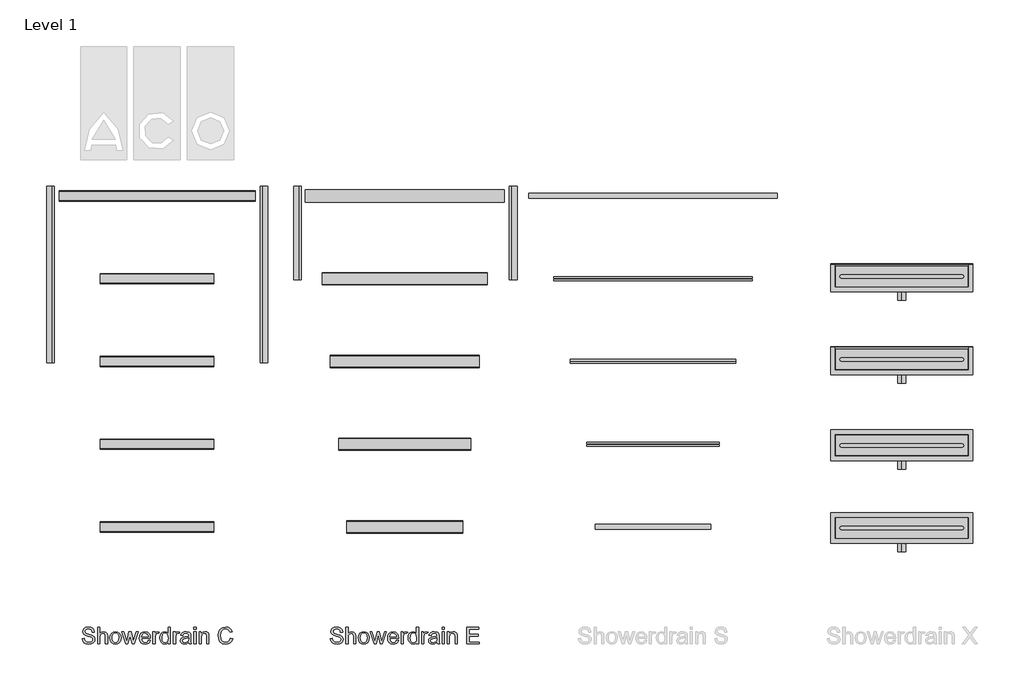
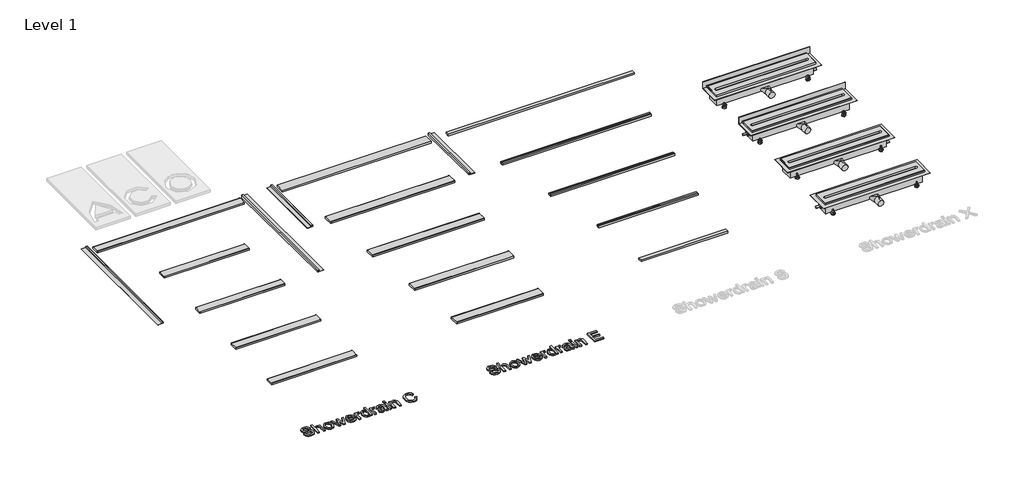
# One storey, part 1 of 2: 23 sanitary terminals, 2 proxies.
"""IFC4 building model written with IfcOpenShell, lengths in millimetres."""

from ifc_helpers import new_model, si_unit, origin, origin_with_axes, place, context, project, spatial, polyline, outline, extrude, transform, mapped, element, save
from components import flag_2725124b, massive_860a07fc, quadrato_88da67b6, solid_bb1f5994, solid_160a1f14, square_cc1d3f16, stripe_b3f19a70, stripes_9619ddbf, stripes_a5dfda9a, stripes_f10ac989, tile_3ef8edfc, twist_63049ae0, twist_12184f07, horizontal_flange_dd45173d, horizontal_flange_0941f2cd, std_3f80d74d, std_d389b9e6, std_fc5748fb, std_90f46c42, wall_flange_efd886ff, wall_flange_291a86f9

model = new_model("IFC4")

# Units and contexts
model_context = context("Model", 3, world=origin())
ifc_project = project(units=[si_unit("LENGTHUNIT", "METRE", prefix="MILLI")], contexts=[model_context])

# Site, building, storey
site = spatial("IfcSite", under=ifc_project)
building = spatial("IfcBuilding", under=site)
storey = spatial("IfcBuildingStorey", under=building, Name="Level 1", Elevation=0.0)

# Proxies
placement = place(None, origin())
element("IfcBuildingElementProxy", 1, Name="100mm ACO", ObjectType="100mm ACO", at=placement, inside=storey, context=model_context, shape_type="SweptSolid", body=[
    extrude(outline(polyline([(607.4074074, -629.6296296), (605.396412, -620.7356771), (600.9259259, -614.3663194), (584.6064815, -609.2592593), (568.9814815, -613.2378472), (564.4675926, -618.1242766), (562.962963, -624.8263889), (567.4334491, -634.8813657), (585.619213, -641.1747685), (605.4542824, -646.6579861), (618.6053241, -655.5844907), (622.7068866, -662.6663773), (624.0740741, -671.8171296), (621.5675637, -683.6552373), (614.0480324, -693.3015046), (602.4992766, -699.714265), (587.9050926, -701.8518519), (569.921875, -699.4791667), (557.1180556, -692.3611111), (549.3055556, -681.4670139), (546.2962963, -667.7662037), (559.2592593, -666.6666667), (561.8887442, -677.5426794), (568.0989583, -684.9971065), (576.9350405, -689.3048322), (587.4421296, -690.7407407), (604.5717593, -686.009838), (609.4762731, -680.4361979), (611.1111111, -673.1770833), (609.4220197, -665.8492477), (604.3547454, -660.8217593), (581.0763889, -653.3709491), (566.8655961, -649.0306713), (557.2771991, -643.1568287), (551.8192998, -635.5287905), (550.0, -625.9259259), (552.2822627, -614.9305556), (559.1290509, -606.0185185), (569.9110243, -600.1157407), (583.9988426, -598.1481481), (598.5604745, -600.1302083), (609.9537037, -606.0763889), (617.4623843, -615.6684028), (620.3703704, -628.587963), (607.4074074, -629.6296296)])), origin_with_axes(), (0.0, 0.0, 1.0), 10.0),
    extrude(outline(polyline([(700.0, -700.0), (687.037037, -700.0), (687.037037, -653.2986111), (683.3478009, -639.7135417), (672.337963, -635.1851852), (659.4039352, -640.5237269), (655.1287616, -647.9564525), (653.7037037, -659.5775463), (653.7037037, -700.0), (640.7407407, -700.0), (640.7407407, -600.0), (653.7037037, -600.0), (653.7037037, -635.8217593), (663.4042245, -628.3998843), (675.2604167, -625.9259259), (688.5416667, -628.7905093), (697.4392361, -637.6012731), (700.0, -654.1087963), (700.0, -700.0)])), origin_with_axes(), (0.0, 0.0, 1.0), 10.0),
    extrude(outline(polyline([(748.119213, -625.9259259), (761.2955729, -628.3203125), (772.0052083, -635.5034722), (779.1124132, -647.0992477), (781.4814815, -662.7314815), (778.9171007, -681.0040509), (771.2239583, -692.9976852), (760.3190104, -699.6383102), (748.119213, -701.8518519), (735.5287905, -699.5768229), (724.7251157, -692.7517361), (717.29239, -680.9859664), (714.8148148, -663.8888889), (717.2092014, -647.1715856), (724.3923611, -635.3298611), (735.1128472, -628.2769097), (748.119213, -625.9259259)]), holes=[polyline([(748.119213, -692.5925926), (756.92636, -690.5852141), (763.3246528, -684.5630787), (768.5185185, -663.4259259), (767.0500579, -651.1429398), (762.6446759, -642.3032407), (756.0763889, -636.9646991), (748.119213, -635.1851852), (740.0065104, -636.9900174), (733.4924769, -642.4045139), (729.2064525, -651.3925058), (727.7777778, -663.9178241), (729.2317708, -676.3997396), (733.59375, -685.3732639), (740.1331019, -690.7877604), (748.119213, -692.5925926)])]), origin_with_axes(), (0.0, 0.0, 1.0), 10.0),
    extrude(outline(polyline([(885.6481481, -627.7777778), (861.4293981, -700.0), (849.1608796, -700.0), (838.6574074, -656.5972222), (837.3553241, -650.7378472), (836.1111111, -644.3287037), (823.3506944, -700.0), (811.1111111, -700.0), (786.5740741, -627.7777778), (798.119213, -627.7777778), (815.7407407, -685.0115741), (817.8530093, -675.2604167), (828.8773148, -627.7777778), (843.4606481, -627.7777778), (852.1990741, -665.6539352), (856.25, -683.4490741), (874.1030093, -627.7777778), (885.6481481, -627.7777778)])), origin_with_axes(), (0.0, 0.0, 1.0), 10.0),
    extrude(outline(polyline([(959.2592593, -666.6666667), (905.5555556, -666.6666667), (907.6280382, -677.7922454), (912.3408565, -685.9375), (919.1225405, -690.9288194), (927.4016204, -692.5925926), (939.0769676, -688.9033565), (946.2962963, -677.7777778), (959.2592593, -679.2824074), (954.8828125, -688.9033565), (947.9456019, -696.0069444), (938.7008102, -700.390625), (927.4016204, -701.8518519), (912.8146701, -699.3453414), (901.8084491, -691.8258102), (894.8965567, -679.9660012), (892.5925926, -664.4386574), (894.8133681, -648.900463), (901.4756944, -636.6030093), (912.1744792, -628.5951968), (926.5046296, -625.9259259), (941.724537, -629.3836806), (954.1521991, -641.1603009), (957.9824942, -651.6963252), (959.2592593, -666.6666667)]), holes=[polyline([(946.2962963, -657.4074074), (944.212963, -647.2511574), (939.4675926, -640.3935185), (926.1863426, -635.1851852), (918.3304398, -636.7332176), (912.0081019, -641.3773148), (905.5555556, -657.4074074), (946.2962963, -657.4074074)])]), origin_with_axes(), (0.0, 0.0, 1.0), 10.0),
    extrude(outline(polyline([(1012.962963, -628.7615741), (1008.912037, -637.037037), (1000.4050926, -635.1851852), (994.6108218, -636.8127894), (990.4224537, -641.6956019), (987.037037, -659.9247685), (987.037037, -700.0), (974.0740741, -700.0), (974.0740741, -627.7777778), (985.1851852, -627.7777778), (985.1851852, -638.4837963), (992.115162, -629.0653935), (1000.5497685, -625.9259259), (1012.962963, -628.7615741)])), origin_with_axes(), (0.0, 0.0, 1.0), 10.0),
    extrude(outline(polyline([(1079.6296296, -700.0), (1066.6666667, -700.0), (1066.6666667, -691.8402778), (1058.3116319, -699.3489583), (1046.9328704, -701.8518519), (1035.0658275, -699.2115162), (1025.3327546, -691.2905093), (1018.8331887, -679.1594329), (1016.6666667, -663.8888889), (1018.7427662, -648.1481481), (1024.9710648, -636.1111111), (1034.6064815, -628.4722222), (1046.9039352, -625.9259259), (1058.1886574, -628.2118056), (1066.40625, -635.0694444), (1066.6666667, -600.0), (1079.6296296, -600.0), (1079.6296296, -700.0)]), holes=[polyline([(1048.4375, -692.5925926), (1055.4904514, -690.8854167), (1061.3715278, -685.7638889), (1065.3428819, -677.1701389), (1066.6666667, -665.0462963), (1061.8200231, -643.287037), (1055.9208623, -637.2106481), (1047.9166667, -635.1851852), (1039.9703414, -637.1672454), (1034.2447917, -643.1134259), (1029.6296296, -663.9178241), (1032.1180556, -679.6730324), (1039.0625, -689.3518519), (1048.4375, -692.5925926)])]), origin_with_axes(), (0.0, 0.0, 1.0), 10.0),
    extrude(outline(polyline([(1137.037037, -628.7615741), (1132.9861111, -637.037037), (1124.4791667, -635.1851852), (1118.6848958, -636.8127894), (1114.4965278, -641.6956019), (1111.1111111, -659.9247685), (1111.1111111, -700.0), (1098.1481481, -700.0), (1098.1481481, -627.7777778), (1109.2592593, -627.7777778), (1109.2592593, -638.4837963), (1116.1892361, -629.0653935), (1124.6238426, -625.9259259), (1137.037037, -628.7615741)])), origin_with_axes(), (0.0, 0.0, 1.0), 10.0),
    extrude(outline(polyline([(1207.4074074, -700.0), (1194.4444444, -700.0), (1190.7407407, -691.2615741), (1178.2479745, -699.2042824), (1164.7858796, -701.8518519), (1154.7996238, -700.4050926), (1147.1788194, -696.0648148), (1142.3502604, -689.3518519), (1140.7407407, -680.787037), (1142.3177083, -672.479022), (1147.0486111, -665.7841435), (1155.6785301, -660.8904803), (1168.9525463, -657.9861111), (1180.2951389, -656.25), (1190.7407407, -653.7037037), (1190.4079861, -645.6741898), (1188.4693287, -640.7986111), (1183.3043981, -636.7332176), (1173.7268519, -635.1851852), (1161.646412, -638.3246528), (1155.5555556, -650.0), (1142.5925926, -648.4085648), (1146.1480035, -638.599537), (1152.8211806, -631.568287), (1162.60489, -627.3365162), (1175.4918981, -625.9259259), (1194.7482639, -629.7887731), (1202.3003472, -639.1059028), (1203.7037037, -653.1539352), (1203.7037037, -669.6759259), (1204.2534722, -689.9305556), (1207.4074074, -700.0)]), holes=[polyline([(1190.7407407, -667.5925926), (1190.7407407, -662.962963), (1167.4623843, -668.287037), (1157.1433738, -672.3451968), (1153.7037037, -680.5844907), (1157.4074074, -689.2071759), (1168.0844907, -692.5925926), (1183.8975694, -686.9212963), (1189.0299479, -679.2534722), (1190.7407407, -667.5925926)])]), origin_with_axes(), (0.0, 0.0, 1.0), 10.0),
    extrude(outline(polyline([(1235.1851852, -612.962963), (1222.2222222, -612.962963), (1222.2222222, -600.0), (1235.1851852, -600.0), (1235.1851852, -612.962963)])), origin_with_axes(), (0.0, 0.0, 1.0), 10.0),
    extrude(outline(polyline([(1235.1851852, -700.0), (1222.2222222, -700.0), (1222.2222222, -627.7777778), (1235.1851852, -627.7777778), (1235.1851852, -700.0)])), origin_with_axes(), (0.0, 0.0, 1.0), 10.0),
    extrude(outline(polyline([(1312.962963, -700.0), (1300.0, -700.0), (1300.0, -655.0347222), (1296.1371528, -639.4386574), (1285.3877315, -635.1851852), (1275.3616898, -637.9050926), (1268.6487269, -645.5729167), (1266.6666667, -659.5775463), (1266.6666667, -700.0), (1253.7037037, -700.0), (1253.7037037, -627.7777778), (1264.8148148, -627.7777778), (1264.8148148, -637.818287), (1274.7106481, -628.8917824), (1287.962963, -625.9259259), (1299.3344907, -627.9803241), (1308.130787, -634.1290509), (1312.1383102, -642.8674769), (1312.962963, -655.4108796), (1312.962963, -700.0)])), origin_with_axes(), (0.0, 0.0, 1.0), 10.0),
    extrude(outline(polyline([(1455.5555556, -668.1712963), (1449.6419271, -682.9969618), (1440.5237269, -693.5040509), (1428.7362558, -699.7649016), (1414.8148148, -701.8518519), (1393.9091435, -697.9962384), (1379.5717593, -686.4293981), (1371.2818287, -669.4372106), (1368.5185185, -649.3055556), (1371.7628762, -627.9188368), (1381.4959491, -611.7332176), (1396.3288484, -601.5444155), (1414.8726852, -598.1481481), (1428.1864873, -599.9602141), (1439.4241898, -605.396412), (1448.0938947, -614.3265336), (1453.7037037, -626.6203704), (1440.7407407, -629.6296296), (1430.8883102, -614.3663194), (1414.380787, -609.2592593), (1400.1591435, -611.968316), (1389.84375, -620.0954861), (1383.5720486, -632.7799479), (1381.4814815, -649.1608796), (1383.6950231, -667.5238715), (1390.3356481, -680.4832176), (1400.5353009, -688.17636), (1413.4259259, -690.7407407), (1423.9945023, -689.1239873), (1432.3784722, -684.2737269), (1438.5778356, -676.1754919), (1442.5925926, -664.8148148), (1455.5555556, -668.1712963)])), origin_with_axes(), (0.0, 0.0, 1.0), 10.0),
])
element("IfcBuildingElementProxy", 2, Name="100mm ACO", ObjectType="100mm ACO", at=placement, inside=storey, context=model_context, shape_type="SweptSolid", body=[
    extrude(outline(polyline([(2107.4074074, -629.6296296), (2105.396412, -620.7356771), (2100.9259259, -614.3663194), (2084.6064815, -609.2592593), (2068.9814815, -613.2378472), (2064.4675926, -618.1242766), (2062.962963, -624.8263889), (2067.4334491, -634.8813657), (2085.619213, -641.1747685), (2105.4542824, -646.6579861), (2118.6053241, -655.5844907), (2122.7068866, -662.6663773), (2124.0740741, -671.8171296), (2121.5675637, -683.6552373), (2114.0480324, -693.3015046), (2102.4992766, -699.714265), (2087.9050926, -701.8518519), (2069.921875, -699.4791667), (2057.1180556, -692.3611111), (2049.3055556, -681.4670139), (2046.2962963, -667.7662037), (2059.2592593, -666.6666667), (2061.8887442, -677.5426794), (2068.0989583, -684.9971065), (2076.9350405, -689.3048322), (2087.4421296, -690.7407407), (2104.5717593, -686.009838), (2109.4762731, -680.4361979), (2111.1111111, -673.1770833), (2109.4220197, -665.8492477), (2104.3547454, -660.8217593), (2081.0763889, -653.3709491), (2066.8655961, -649.0306713), (2057.2771991, -643.1568287), (2051.8192998, -635.5287905), (2050.0, -625.9259259), (2052.2822627, -614.9305556), (2059.1290509, -606.0185185), (2069.9110243, -600.1157407), (2083.9988426, -598.1481481), (2098.5604745, -600.1302083), (2109.9537037, -606.0763889), (2117.4623843, -615.6684028), (2120.3703704, -628.587963), (2107.4074074, -629.6296296)])), origin_with_axes(), (0.0, 0.0, 1.0), 10.0),
    extrude(outline(polyline([(2200.0, -700.0), (2187.037037, -700.0), (2187.037037, -653.2986111), (2183.3478009, -639.7135417), (2172.337963, -635.1851852), (2159.4039352, -640.5237269), (2155.1287616, -647.9564525), (2153.7037037, -659.5775463), (2153.7037037, -700.0), (2140.7407407, -700.0), (2140.7407407, -600.0), (2153.7037037, -600.0), (2153.7037037, -635.8217593), (2163.4042245, -628.3998843), (2175.2604167, -625.9259259), (2188.5416667, -628.7905093), (2197.4392361, -637.6012731), (2200.0, -654.1087963), (2200.0, -700.0)])), origin_with_axes(), (0.0, 0.0, 1.0), 10.0),
    extrude(outline(polyline([(2248.119213, -625.9259259), (2261.2955729, -628.3203125), (2272.0052083, -635.5034722), (2279.1124132, -647.0992477), (2281.4814815, -662.7314815), (2278.9171007, -681.0040509), (2271.2239583, -692.9976852), (2260.3190104, -699.6383102), (2248.119213, -701.8518519), (2235.5287905, -699.5768229), (2224.7251157, -692.7517361), (2217.29239, -680.9859664), (2214.8148148, -663.8888889), (2217.2092014, -647.1715856), (2224.3923611, -635.3298611), (2235.1128472, -628.2769097), (2248.119213, -625.9259259)]), holes=[polyline([(2248.119213, -692.5925926), (2256.92636, -690.5852141), (2263.3246528, -684.5630787), (2268.5185185, -663.4259259), (2267.0500579, -651.1429398), (2262.6446759, -642.3032407), (2256.0763889, -636.9646991), (2248.119213, -635.1851852), (2240.0065104, -636.9900174), (2233.4924769, -642.4045139), (2229.2064525, -651.3925058), (2227.7777778, -663.9178241), (2229.2317708, -676.3997396), (2233.59375, -685.3732639), (2240.1331019, -690.7877604), (2248.119213, -692.5925926)])]), origin_with_axes(), (0.0, 0.0, 1.0), 10.0),
    extrude(outline(polyline([(2385.6481481, -627.7777778), (2361.4293981, -700.0), (2349.1608796, -700.0), (2338.6574074, -656.5972222), (2337.3553241, -650.7378472), (2336.1111111, -644.3287037), (2323.3506944, -700.0), (2311.1111111, -700.0), (2286.5740741, -627.7777778), (2298.119213, -627.7777778), (2315.7407407, -685.0115741), (2317.8530093, -675.2604167), (2328.8773148, -627.7777778), (2343.4606481, -627.7777778), (2352.1990741, -665.6539352), (2356.25, -683.4490741), (2374.1030093, -627.7777778), (2385.6481481, -627.7777778)])), origin_with_axes(), (0.0, 0.0, 1.0), 10.0),
    extrude(outline(polyline([(2459.2592593, -666.6666667), (2405.5555556, -666.6666667), (2407.6280382, -677.7922454), (2412.3408565, -685.9375), (2419.1225405, -690.9288194), (2427.4016204, -692.5925926), (2439.0769676, -688.9033565), (2446.2962963, -677.7777778), (2459.2592593, -679.2824074), (2454.8828125, -688.9033565), (2447.9456019, -696.0069444), (2438.7008102, -700.390625), (2427.4016204, -701.8518519), (2412.8146701, -699.3453414), (2401.8084491, -691.8258102), (2394.8965567, -679.9660012), (2392.5925926, -664.4386574), (2394.8133681, -648.900463), (2401.4756944, -636.6030093), (2412.1744792, -628.5951968), (2426.5046296, -625.9259259), (2441.724537, -629.3836806), (2454.1521991, -641.1603009), (2457.9824942, -651.6963252), (2459.2592593, -666.6666667)]), holes=[polyline([(2446.2962963, -657.4074074), (2444.212963, -647.2511574), (2439.4675926, -640.3935185), (2426.1863426, -635.1851852), (2418.3304398, -636.7332176), (2412.0081019, -641.3773148), (2405.5555556, -657.4074074), (2446.2962963, -657.4074074)])]), origin_with_axes(), (0.0, 0.0, 1.0), 10.0),
    extrude(outline(polyline([(2512.962963, -628.7615741), (2508.912037, -637.037037), (2500.4050926, -635.1851852), (2494.6108218, -636.8127894), (2490.4224537, -641.6956019), (2487.037037, -659.9247685), (2487.037037, -700.0), (2474.0740741, -700.0), (2474.0740741, -627.7777778), (2485.1851852, -627.7777778), (2485.1851852, -638.4837963), (2492.115162, -629.0653935), (2500.5497685, -625.9259259), (2512.962963, -628.7615741)])), origin_with_axes(), (0.0, 0.0, 1.0), 10.0),
    extrude(outline(polyline([(2579.6296296, -700.0), (2566.6666667, -700.0), (2566.6666667, -691.8402778), (2558.3116319, -699.3489583), (2546.9328704, -701.8518519), (2535.0658275, -699.2115162), (2525.3327546, -691.2905093), (2518.8331887, -679.1594329), (2516.6666667, -663.8888889), (2518.7427662, -648.1481481), (2524.9710648, -636.1111111), (2534.6064815, -628.4722222), (2546.9039352, -625.9259259), (2558.1886574, -628.2118056), (2566.40625, -635.0694444), (2566.6666667, -600.0), (2579.6296296, -600.0), (2579.6296296, -700.0)]), holes=[polyline([(2548.4375, -692.5925926), (2555.4904514, -690.8854167), (2561.3715278, -685.7638889), (2565.3428819, -677.1701389), (2566.6666667, -665.0462963), (2561.8200231, -643.287037), (2555.9208623, -637.2106481), (2547.9166667, -635.1851852), (2539.9703414, -637.1672454), (2534.2447917, -643.1134259), (2529.6296296, -663.9178241), (2532.1180556, -679.6730324), (2539.0625, -689.3518519), (2548.4375, -692.5925926)])]), origin_with_axes(), (0.0, 0.0, 1.0), 10.0),
    extrude(outline(polyline([(2637.037037, -628.7615741), (2632.9861111, -637.037037), (2624.4791667, -635.1851852), (2618.6848958, -636.8127894), (2614.4965278, -641.6956019), (2611.1111111, -659.9247685), (2611.1111111, -700.0), (2598.1481481, -700.0), (2598.1481481, -627.7777778), (2609.2592593, -627.7777778), (2609.2592593, -638.4837963), (2616.1892361, -629.0653935), (2624.6238426, -625.9259259), (2637.037037, -628.7615741)])), origin_with_axes(), (0.0, 0.0, 1.0), 10.0),
    extrude(outline(polyline([(2707.4074074, -700.0), (2694.4444444, -700.0), (2690.7407407, -691.2615741), (2678.2479745, -699.2042824), (2664.7858796, -701.8518519), (2654.7996238, -700.4050926), (2647.1788194, -696.0648148), (2642.3502604, -689.3518519), (2640.7407407, -680.787037), (2642.3177083, -672.479022), (2647.0486111, -665.7841435), (2655.6785301, -660.8904803), (2668.9525463, -657.9861111), (2680.2951389, -656.25), (2690.7407407, -653.7037037), (2690.4079861, -645.6741898), (2688.4693287, -640.7986111), (2683.3043981, -636.7332176), (2673.7268519, -635.1851852), (2661.646412, -638.3246528), (2655.5555556, -650.0), (2642.5925926, -648.4085648), (2646.1480035, -638.599537), (2652.8211806, -631.568287), (2662.60489, -627.3365162), (2675.4918981, -625.9259259), (2694.7482639, -629.7887731), (2702.3003472, -639.1059028), (2703.7037037, -653.1539352), (2703.7037037, -669.6759259), (2704.2534722, -689.9305556), (2707.4074074, -700.0)]), holes=[polyline([(2690.7407407, -667.5925926), (2690.7407407, -662.962963), (2667.4623843, -668.287037), (2657.1433738, -672.3451968), (2653.7037037, -680.5844907), (2657.4074074, -689.2071759), (2668.0844907, -692.5925926), (2683.8975694, -686.9212963), (2689.0299479, -679.2534722), (2690.7407407, -667.5925926)])]), origin_with_axes(), (0.0, 0.0, 1.0), 10.0),
    extrude(outline(polyline([(2735.1851852, -612.962963), (2722.2222222, -612.962963), (2722.2222222, -600.0), (2735.1851852, -600.0), (2735.1851852, -612.962963)])), origin_with_axes(), (0.0, 0.0, 1.0), 10.0),
    extrude(outline(polyline([(2735.1851852, -700.0), (2722.2222222, -700.0), (2722.2222222, -627.7777778), (2735.1851852, -627.7777778), (2735.1851852, -700.0)])), origin_with_axes(), (0.0, 0.0, 1.0), 10.0),
    extrude(outline(polyline([(2812.962963, -700.0), (2800.0, -700.0), (2800.0, -655.0347222), (2796.1371528, -639.4386574), (2785.3877315, -635.1851852), (2775.3616898, -637.9050926), (2768.6487269, -645.5729167), (2766.6666667, -659.5775463), (2766.6666667, -700.0), (2753.7037037, -700.0), (2753.7037037, -627.7777778), (2764.8148148, -627.7777778), (2764.8148148, -637.818287), (2774.7106481, -628.8917824), (2787.962963, -625.9259259), (2799.3344907, -627.9803241), (2808.130787, -634.1290509), (2812.1383102, -642.8674769), (2812.962963, -655.4108796), (2812.962963, -700.0)])), origin_with_axes(), (0.0, 0.0, 1.0), 10.0),
    extrude(outline(polyline([(2946.2962963, -700.0), (2872.2222222, -700.0), (2872.2222222, -600.0), (2944.4444444, -600.0), (2944.4444444, -611.1111111), (2885.1851852, -611.1111111), (2885.1851852, -642.5925926), (2940.7407407, -642.5925926), (2940.7407407, -653.7037037), (2885.1851852, -653.7037037), (2885.1851852, -688.8888889), (2946.2962963, -688.8888889), (2946.2962963, -700.0)])), origin_with_axes(), (0.0, 0.0, 1.0), 10.0),
])

# Sanitary terminals
flag_shape = flag_2725124b(model_context)
element("IfcSanitaryTerminal", 3, ObjectType="ZZZ_do not use_PF_ST_grating for showerdrain e_Aco : Flag", at=placement, inside=storey, context=model_context, shape_type="MappedRepresentation", body=[
    mapped(flag_shape, transform((2496.2962963, 1507.0180125, 15.0), x_axis=(1.0, 0.0, 0.0), y_axis=(0.0, 1.0, 0.0), z_axis=(0.0, 0.0, 1.0))),
])
massive_shape = massive_860a07fc(model_context)
element("IfcSanitaryTerminal", 4, ObjectType="ZZZ_do not use_PF_ST_grating for showerdrain c INT_Aco : Massive", at=placement, inside=storey, context=model_context, shape_type="MappedRepresentation", body=[
    mapped(massive_shape, transform((1000.0, 1007.0180125, 15.0), x_axis=(1.0, 0.0, 0.0), y_axis=(0.0, 1.0, 0.0), z_axis=(0.0, 0.0, 1.0))),
])
quadrato_shape = quadrato_88da67b6(model_context)
element("IfcSanitaryTerminal", 5, ObjectType="ZZZ_do not use_PF_ST_grating for showerdrain e_Aco : Quadrato", at=placement, inside=storey, context=model_context, shape_type="MappedRepresentation", body=[
    mapped(quadrato_shape, transform((2496.2962963, 1007.0180125, 15.0), x_axis=(1.0, 0.0, 0.0), y_axis=(0.0, 1.0, 0.0), z_axis=(0.0, 0.0, 1.0))),
])
element("IfcSanitaryTerminal", 6, ObjectType="ZZZ_do not use_PF_ST_grating for showerdrain c INT_Aco : Slot", at=placement, inside=storey, context=model_context, shape_type="MappedRepresentation", body=[
    mapped(massive_shape, transform((1000.0, 7.0180125, 15.0), x_axis=(1.0, 0.0, 0.0), y_axis=(0.0, 1.0, 0.0), z_axis=(0.0, 0.0, 1.0))),
])
solid_shape = solid_bb1f5994(model_context)
element("IfcSanitaryTerminal", 7, ObjectType="ZZZ_do not use_PF_ST_grating for showerdrain s_Aco : Solid", at=placement, inside=storey, context=model_context, shape_type="MappedRepresentation", body=[
    mapped(solid_shape, transform((3996.2962963, 2007.0180125, 9.0), x_axis=(1.0, 0.0, 0.0), y_axis=(0.0, 1.0, 0.0), z_axis=(0.0, 0.0, 1.0))),
])
solid_2_shape = solid_160a1f14(model_context)
element("IfcSanitaryTerminal", 8, ObjectType="ZZZ_do not use_PF_ST_grating for showerdrain s_Aco : Solid", at=placement, inside=storey, context=model_context, shape_type="MappedRepresentation", body=[
    mapped(solid_2_shape, transform((3996.2962963, 7.0180125, 9.0), x_axis=(1.0, 0.0, 0.0), y_axis=(0.0, 1.0, 0.0), z_axis=(0.0, 0.0, 1.0))),
])
element("IfcSanitaryTerminal", 9, ObjectType="ZZZ_do not use_PF_ST_grating for showerdrain c INT_Aco : Square", at=placement, inside=storey, context=model_context, shape_type="MappedRepresentation", body=[
    mapped(massive_shape, transform((1000.0, 507.0180125, 15.0), x_axis=(1.0, 0.0, 0.0), y_axis=(0.0, 1.0, 0.0), z_axis=(0.0, 0.0, 1.0))),
])
square_shape = square_cc1d3f16(model_context)
element("IfcSanitaryTerminal", 10, ObjectType="ZZZ_do not use_PF_ST_grating for showerdrain c INT_Aco : Square", at=placement, inside=storey, context=model_context, shape_type="MappedRepresentation", body=[
    mapped(square_shape, transform((1000.0, 2007.0180125, 15.0), x_axis=(1.0, 0.0, 0.0), y_axis=(0.0, 1.0, 0.0), z_axis=(0.0, 0.0, 1.0))),
])
stripe_shape = stripe_b3f19a70(model_context)
element("IfcSanitaryTerminal", 11, ObjectType="ZZZ_do not use_PF_ST_grating for showerdrain e_Aco : Stripe", at=placement, inside=storey, context=model_context, shape_type="MappedRepresentation", body=[
    mapped(stripe_shape, transform((2496.2962963, 507.0180125, 15.0), x_axis=(1.0, 0.0, 0.0), y_axis=(0.0, 1.0, 0.0), z_axis=(0.0, 0.0, 1.0))),
])
stripes_shape = stripes_9619ddbf(model_context)
element("IfcSanitaryTerminal", 12, ObjectType="ZZZ_do not use_PF_ST_grating for showerdrain s_Aco : Stripes", at=placement, inside=storey, context=model_context, shape_type="MappedRepresentation", body=[
    mapped(stripes_shape, transform((3996.2962963, 1007.0180125, 9.0), x_axis=(1.0, 0.0, 0.0), y_axis=(0.0, 1.0, 0.0), z_axis=(0.0, 0.0, 1.0))),
])
stripes_2_shape = stripes_a5dfda9a(model_context)
element("IfcSanitaryTerminal", 13, ObjectType="ZZZ_do not use_PF_ST_grating for showerdrain s_Aco : Stripes", at=placement, inside=storey, context=model_context, shape_type="MappedRepresentation", body=[
    mapped(stripes_2_shape, transform((3996.2962963, 1507.0180125, 9.0), x_axis=(1.0, 0.0, 0.0), y_axis=(0.0, 1.0, 0.0), z_axis=(0.0, 0.0, 1.0))),
])
stripes_3_shape = stripes_f10ac989(model_context)
element("IfcSanitaryTerminal", 14, ObjectType="ZZZ_do not use_PF_ST_grating for showerdrain s_Aco : Stripes", at=placement, inside=storey, context=model_context, shape_type="MappedRepresentation", body=[
    mapped(stripes_3_shape, transform((3996.2962963, 507.0180125, 9.0), x_axis=(1.0, 0.0, 0.0), y_axis=(0.0, 1.0, 0.0), z_axis=(0.0, 0.0, 1.0))),
])
tile_shape = tile_3ef8edfc(model_context)
element("IfcSanitaryTerminal", 15, ObjectType="ZZZ_do not use_PF_ST_grating for showerdrain c INT_Aco : Tile", at=placement, inside=storey, context=model_context, shape_type="MappedRepresentation", body=[
    mapped(tile_shape, transform((1000.0, 1507.0180125, 15.0), x_axis=(1.0, 0.0, 0.0), y_axis=(0.0, 1.0, 0.0), z_axis=(0.0, 0.0, 1.0))),
])
twist_shape = twist_63049ae0(model_context)
element("IfcSanitaryTerminal", 16, ObjectType="ZZZ_do not use_PF_ST_grating for showerdrain e_Aco : Twist", at=placement, inside=storey, context=model_context, shape_type="MappedRepresentation", body=[
    mapped(twist_shape, transform((2496.2962963, 2007.0180125, 15.0), x_axis=(1.0, 0.0, 0.0), y_axis=(0.0, 1.0, 0.0), z_axis=(0.0, 0.0, 1.0))),
])
twist_2_shape = twist_12184f07(model_context)
element("IfcSanitaryTerminal", 17, ObjectType="ZZZ_do not use_PF_ST_grating for showerdrain e_Aco : Twist", at=placement, inside=storey, context=model_context, shape_type="MappedRepresentation", body=[
    mapped(twist_2_shape, transform((2496.2962963, 7.0180125, 15.0), x_axis=(1.0, 0.0, 0.0), y_axis=(0.0, 1.0, 0.0), z_axis=(0.0, 0.0, 1.0))),
])
horizontal_flange_shape = horizontal_flange_dd45173d(model_context)
element("IfcSanitaryTerminal", 18, ObjectType="PF_ST_showerdrain X_Aco : horizontal flange", at=placement, inside=storey, context=model_context, shape_type="MappedRepresentation", body=[
    mapped(horizontal_flange_shape, transform((5500.0086079, 500.0180125, 0.0), x_axis=(1.0, 0.0, 0.0), y_axis=(0.0, 1.0, 0.0), z_axis=(0.0, 0.0, 1.0))),
])
horizontal_flange_2_shape = horizontal_flange_0941f2cd(model_context)
element("IfcSanitaryTerminal", 19, ObjectType="PF_ST_showerdrain X_Aco : horizontal flange", at=placement, inside=storey, context=model_context, shape_type="MappedRepresentation", body=[
    mapped(horizontal_flange_2_shape, transform((5500.0086079, 0.0180125, 0.0), x_axis=(1.0, 0.0, 0.0), y_axis=(0.0, 1.0, 0.0), z_axis=(0.0, 0.0, 1.0))),
])
std_shape = std_3f80d74d(model_context)
element("IfcSanitaryTerminal", 20, ObjectType="ZZZ_do not use_PF_ST_showerstep_ACO : std", at=placement, inside=storey, context=model_context, shape_type="MappedRepresentation", body=[
    mapped(std_shape, transform((1870.0086079, 1500.0180125, 15.0), x_axis=(0.0, 1.0, 0.0), y_axis=(-1.0, 0.0, 0.0), z_axis=(0.0, 0.0, 1.0))),
])
std_2_shape = std_d389b9e6(model_context)
element("IfcSanitaryTerminal", 21, ObjectType="ZZZ_do not use_PF_ST_showerstep_ACO : std", at=placement, inside=storey, context=model_context, shape_type="MappedRepresentation", body=[
    mapped(std_2_shape, transform((3129.0086079, 1500.0180125, 15.0), x_axis=(0.0, 1.0, 0.0), y_axis=(-1.0, 0.0, 0.0), z_axis=(0.0, 0.0, 1.0))),
])
std_3_shape = std_fc5748fb(model_context)
element("IfcSanitaryTerminal", 22, ObjectType="ZZZ_do not use_PF_ST_showerstep_ACO : std", at=placement, inside=storey, context=model_context, shape_type="MappedRepresentation", body=[
    mapped(std_3_shape, transform((377.5, 1000.0180125, 15.0), x_axis=(0.0, 1.0, 0.0), y_axis=(-1.0, 0.0, 0.0), z_axis=(0.0, 0.0, 1.0))),
])
std_4_shape = std_90f46c42(model_context)
element("IfcSanitaryTerminal", 23, ObjectType="ZZZ_do not use_PF_ST_showerstep_ACO : std", at=placement, inside=storey, context=model_context, shape_type="MappedRepresentation", body=[
    mapped(std_4_shape, transform((1622.5, 1000.0180125, 15.0), x_axis=(0.0, 1.0, 0.0), y_axis=(-1.0, 0.0, 0.0), z_axis=(0.0, 0.0, 1.0))),
])
wall_flange_shape = wall_flange_efd886ff(model_context)
element("IfcSanitaryTerminal", 24, ObjectType="PF_ST_showerdrain X_Aco : wall flange", at=placement, inside=storey, context=model_context, shape_type="MappedRepresentation", body=[
    mapped(wall_flange_shape, transform((5500.0086079, 1520.0180125, 0.0), x_axis=(1.0, 0.0, 0.0), y_axis=(0.0, 1.0, 0.0), z_axis=(0.0, 0.0, 1.0))),
])
wall_flange_2_shape = wall_flange_291a86f9(model_context)
element("IfcSanitaryTerminal", 25, ObjectType="PF_ST_showerdrain X_Aco : wall flange", at=placement, inside=storey, context=model_context, shape_type="MappedRepresentation", body=[
    mapped(wall_flange_2_shape, transform((5500.0086079, 1020.0180125, 0.0), x_axis=(1.0, 0.0, 0.0), y_axis=(0.0, 1.0, 0.0), z_axis=(0.0, 0.0, 1.0))),
])

save(model, "model.ifc")
